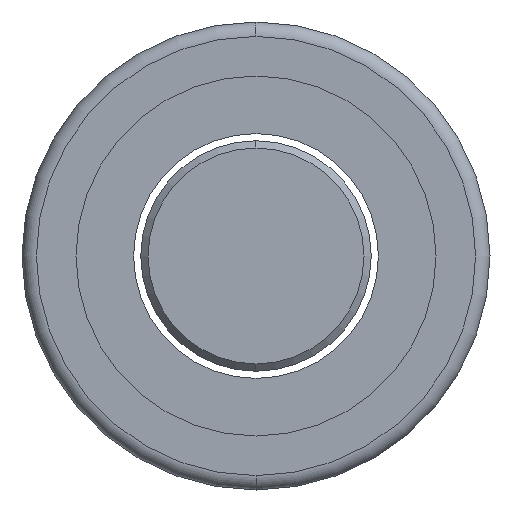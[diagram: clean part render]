
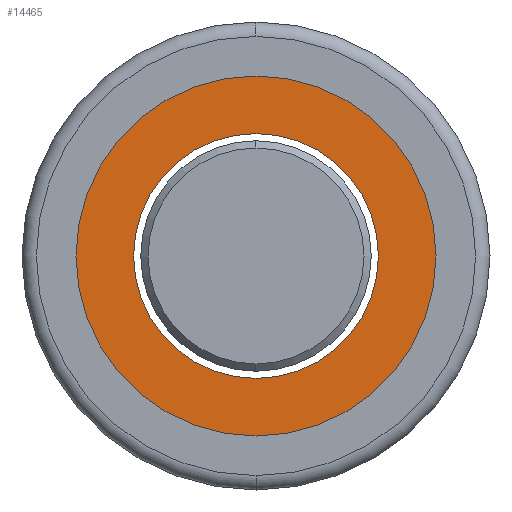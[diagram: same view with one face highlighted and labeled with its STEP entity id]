
A CAD part, left-side view. The second image highlights one B-rep face of the part: STEP entity #14465.
In plain terms, the highlighted planar face has unit normal (-1, 0, 0).
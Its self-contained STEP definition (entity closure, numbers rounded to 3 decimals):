
#105 = ORIENTED_EDGE ( 'NONE', *, *, #5819, .F. ) ;
#705 = CARTESIAN_POINT ( 'NONE',  ( -54., 0., 13. ) ) ;
#890 = EDGE_LOOP ( 'NONE', ( #105, #3417 ) ) ;
#972 = CARTESIAN_POINT ( 'NONE',  ( -54., 0., 0. ) ) ;
#1504 = CIRCLE ( 'NONE', #10383, 13. ) ;
#1532 = ORIENTED_EDGE ( 'NONE', *, *, #15224, .T. ) ;
#1674 = EDGE_LOOP ( 'NONE', ( #1532, #15122 ) ) ;
#1685 = DIRECTION ( 'NONE',  ( 0., 0., -1. ) ) ;
#1812 = VERTEX_POINT ( 'NONE', #9740 ) ;
#2166 = DIRECTION ( 'NONE',  ( 0., 0., -1. ) ) ;
#2236 = AXIS2_PLACEMENT_3D ( 'NONE', #15254, #12807, #6779 ) ;
#2394 = DIRECTION ( 'NONE',  ( 1., 0., 0. ) ) ;
#2600 = CARTESIAN_POINT ( 'NONE',  ( -54., 0., 8.5 ) ) ;
#2924 = VERTEX_POINT ( 'NONE', #2600 ) ;
#3417 = ORIENTED_EDGE ( 'NONE', *, *, #10231, .F. ) ;
#3463 = DIRECTION ( 'NONE',  ( 1., 0., 0. ) ) ;
#3643 = AXIS2_PLACEMENT_3D ( 'NONE', #6190, #4844, #9615 ) ;
#3747 = AXIS2_PLACEMENT_3D ( 'NONE', #7111, #3463, #12913 ) ;
#3825 = VERTEX_POINT ( 'NONE', #705 ) ;
#4762 = CIRCLE ( 'NONE', #3747, 13. ) ;
#4844 = DIRECTION ( 'NONE',  ( -1., 0., 0. ) ) ;
#5819 = EDGE_CURVE ( 'NONE', #1812, #3825, #1504, .T. ) ;
#6190 = CARTESIAN_POINT ( 'NONE',  ( -54., 10.75, 0. ) ) ;
#6779 = DIRECTION ( 'NONE',  ( 0., 0., -1. ) ) ;
#7111 = CARTESIAN_POINT ( 'NONE',  ( -54., 0., 0. ) ) ;
#7544 = CARTESIAN_POINT ( 'NONE',  ( -54., 0., 0. ) ) ;
#9322 = CIRCLE ( 'NONE', #2236, 8.5 ) ;
#9615 = DIRECTION ( 'NONE',  ( 0., 0., 1. ) ) ;
#9740 = CARTESIAN_POINT ( 'NONE',  ( -54., 0., -13. ) ) ;
#10231 = EDGE_CURVE ( 'NONE', #3825, #1812, #4762, .T. ) ;
#10383 = AXIS2_PLACEMENT_3D ( 'NONE', #972, #2394, #2166 ) ;
#10800 = FACE_BOUND ( 'NONE', #1674, .T. ) ;
#12547 = EDGE_CURVE ( 'NONE', #2924, #15428, #9322, .T. ) ;
#12779 = CIRCLE ( 'NONE', #13532, 8.5 ) ;
#12807 = DIRECTION ( 'NONE',  ( 1., 0., 0. ) ) ;
#12913 = DIRECTION ( 'NONE',  ( 0., 0., -1. ) ) ;
#13532 = AXIS2_PLACEMENT_3D ( 'NONE', #7544, #13817, #1685 ) ;
#13655 = CARTESIAN_POINT ( 'NONE',  ( -54., 0., -8.5 ) ) ;
#13817 = DIRECTION ( 'NONE',  ( 1., 0., 0. ) ) ;
#14465 = ADVANCED_FACE ( 'NONE', ( #15629, #10800 ), #15552, .T. ) ;
#15122 = ORIENTED_EDGE ( 'NONE', *, *, #12547, .T. ) ;
#15224 = EDGE_CURVE ( 'NONE', #15428, #2924, #12779, .T. ) ;
#15254 = CARTESIAN_POINT ( 'NONE',  ( -54., 0., 0. ) ) ;
#15428 = VERTEX_POINT ( 'NONE', #13655 ) ;
#15552 = PLANE ( 'NONE',  #3643 ) ;
#15629 = FACE_OUTER_BOUND ( 'NONE', #890, .T. ) ;
